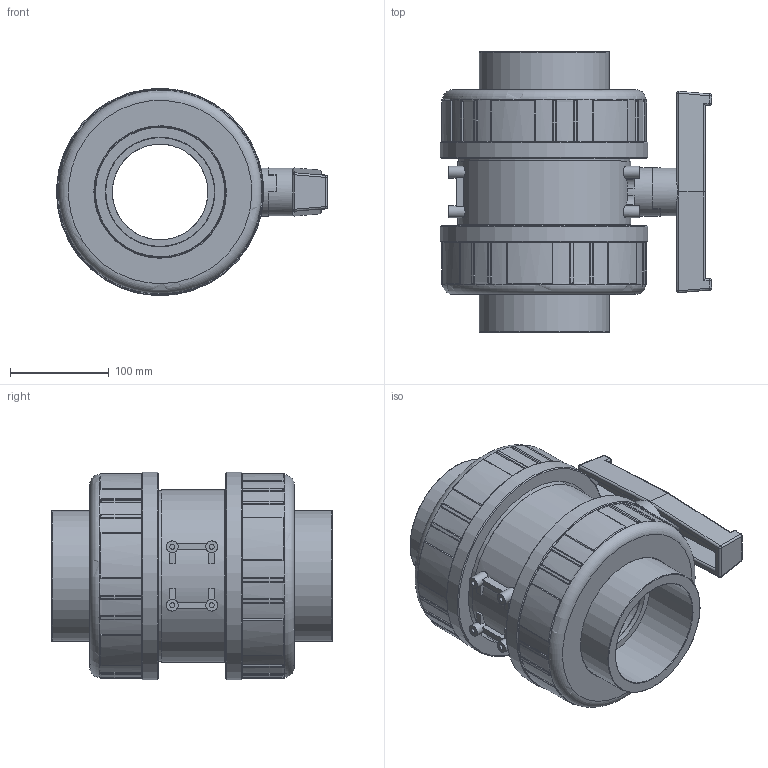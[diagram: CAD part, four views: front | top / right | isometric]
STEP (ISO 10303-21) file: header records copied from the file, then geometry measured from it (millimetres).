
FILE_DESCRIPTION(/* description */ (''),/* implementation_level */ '2;1');
FILE_NAME(/* name */ 'C:\Users\POLYPIPE\Desktop\DATASET INVENTOR\LIBRERIA EFFAST\3D_VALVOLE\3D_VALVOLE A SFERA\3D_BK1\3D_BDRBK1D\3D_BDRBK1D1100.stp',/* time_stamp */ '2018-01-23T15:39:39+01:00',/* author */ ('POLYPIPE'),/* organization */ (''),/* preprocessor_version */ 'ST-DEVELOPER v16.1',/* originating_system */ 'Autodesk Inventor 2016',/* authorisation */ '');
FILE_SCHEMA (('CONFIG_CONTROL_DESIGN'));
Products named in the file (1): 3D_BDRBK1D1100
Bounding box: 274.45 x 284 x 209.9 mm (x, y, z)
Volume: 4931773.7 mm3; surface area: 583103.4 mm2
Topology: 3 solids, 4 shells, 596 faces, 1502 edges, 943 vertices
Faces by surface type: cylinder 220, plane 186, bspline 148, torus 26, sphere 12, cone 4
Full cylindrical faces by diameter (mm): 5 x8, 12 x8, 32 x1, 48.3 x1, 48.8 x1, 96.8 x2, 97 x1, 110 x2, 131.8 x2, 133 x2, 134.1 x2, 164.3 x2, 173 x2, 175 x1, 179.8 x2, 210 x2
Entity records: 61886 total; most frequent: CARTESIAN_POINT 47927, ORIENTED_EDGE 2866, DIRECTION 2536, EDGE_CURVE 1433, AXIS2_PLACEMENT_3D 984, VERTEX_POINT 929, EDGE_LOOP 686, STYLED_ITEM 599
